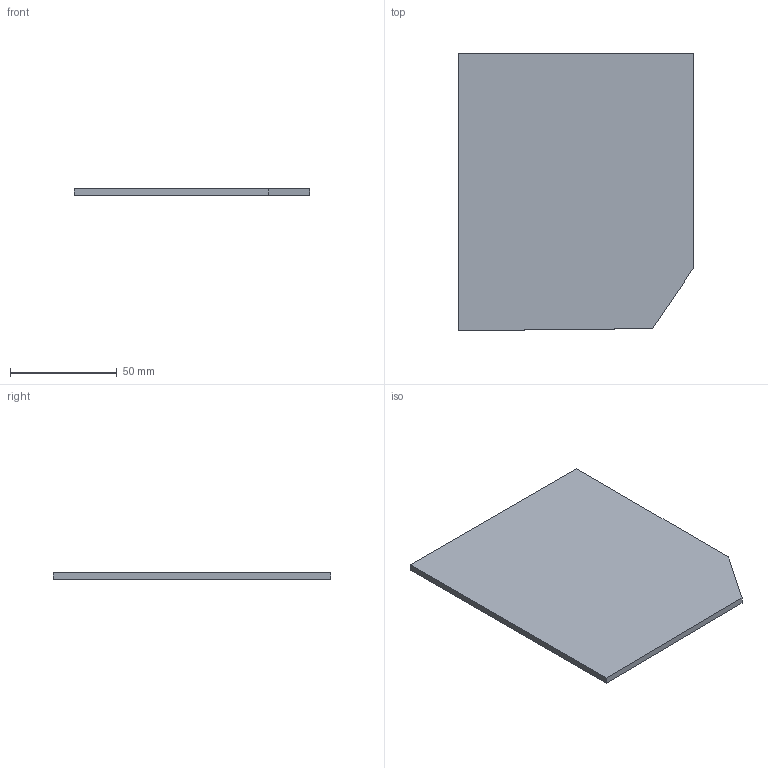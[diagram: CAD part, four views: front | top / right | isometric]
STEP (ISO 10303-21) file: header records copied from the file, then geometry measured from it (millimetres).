
FILE_DESCRIPTION(('Open CASCADE Model'),'2;1');
FILE_NAME('Open CASCADE Shape Model','2026-11-03T04:29:35',('Author'),( 'Open CASCADE'),'Open CASCADE STEP processor 7.8','Open CASCADE 7.8' ,'Unknown');
FILE_SCHEMA(('AUTOMOTIVE_DESIGN { 1 0 10303 214 1 1 1 1 }'));
Length unit declared in the file: millimetre
Products named in the file (1): Open CASCADE STEP translator 7.8 25
Bounding box: 110.3 x 130 x 3 mm (x, y, z)
Volume: 41954 mm3; surface area: 29367.8 mm2
Topology: 1 solids, 1 shells, 7 faces, 15 edges, 10 vertices
Faces by surface type: plane 7
Entity records: 394 total; most frequent: CARTESIAN_POINT 63, DIRECTION 61, LINE 45, VECTOR 45, ORIENTED_EDGE 30, PCURVE 30, DEFINITIONAL_REPRESENTATION 30, EDGE_CURVE 15
